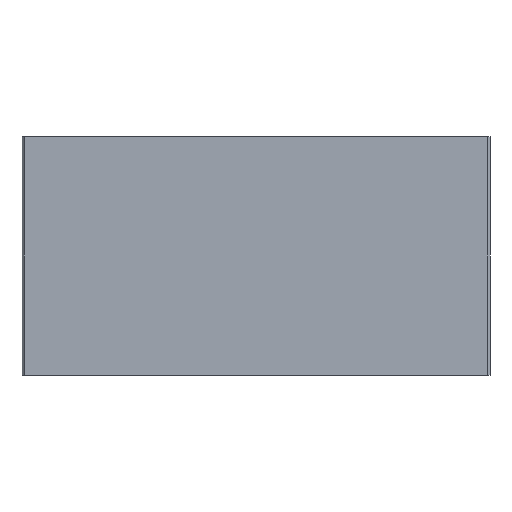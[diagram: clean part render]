
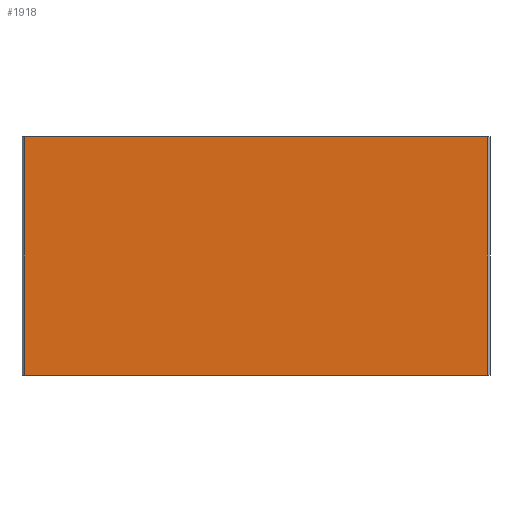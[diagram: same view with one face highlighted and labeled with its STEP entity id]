
A CAD part, front view. The second image highlights one B-rep face of the part: STEP entity #1918.
In plain terms, the highlighted planar face has unit normal (0, -1, 0).
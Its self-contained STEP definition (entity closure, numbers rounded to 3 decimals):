
#1224 = CARTESIAN_POINT ( 'NONE',  ( 36.283, 186.724, 0. ) ) ;
#1638 = DIRECTION ( 'NONE',  ( 0., 0., -1. ) ) ;
#1918 = ADVANCED_FACE ( 'NONE', ( #8372 ), #46674, .F. ) ;
#3495 = DIRECTION ( 'NONE',  ( 0., 0., -1. ) ) ;
#6823 = LINE ( 'NONE', #37870, #54805 ) ;
#7653 = EDGE_CURVE ( 'NONE', #14576, #61243, #41859, .T. ) ;
#8372 = FACE_OUTER_BOUND ( 'NONE', #29994, .T. ) ;
#13974 = DIRECTION ( 'NONE',  ( 1., 0., 0. ) ) ;
#14094 = CARTESIAN_POINT ( 'NONE',  ( 36.283, 186.724, 100. ) ) ;
#14576 = VERTEX_POINT ( 'NONE', #1224 ) ;
#15834 = ORIENTED_EDGE ( 'NONE', *, *, #37779, .F. ) ;
#16359 = VECTOR ( 'NONE', #17703, 1000. ) ;
#17703 = DIRECTION ( 'NONE',  ( 1., 0., 0. ) ) ;
#21318 = VECTOR ( 'NONE', #1638, 1000. ) ;
#27615 = DIRECTION ( 'NONE',  ( 0., 0., 1. ) ) ;
#29937 = ORIENTED_EDGE ( 'NONE', *, *, #48216, .T. ) ;
#29994 = EDGE_LOOP ( 'NONE', ( #41876, #36338, #15834, #29937 ) ) ;
#30903 = VERTEX_POINT ( 'NONE', #31121 ) ;
#31121 = CARTESIAN_POINT ( 'NONE',  ( 36.283, 186.724, 100. ) ) ;
#35163 = CARTESIAN_POINT ( 'NONE',  ( 230.283, 186.724, 100. ) ) ;
#35722 = VECTOR ( 'NONE', #3495, 1000. ) ;
#36338 = ORIENTED_EDGE ( 'NONE', *, *, #42803, .F. ) ;
#37231 = LINE ( 'NONE', #14094, #35722 ) ;
#37779 = EDGE_CURVE ( 'NONE', #30903, #50320, #6823, .T. ) ;
#37870 = CARTESIAN_POINT ( 'NONE',  ( 36.283, 186.724, 100. ) ) ;
#41859 = LINE ( 'NONE', #51231, #16359 ) ;
#41876 = ORIENTED_EDGE ( 'NONE', *, *, #7653, .T. ) ;
#42803 = EDGE_CURVE ( 'NONE', #50320, #61243, #46790, .T. ) ;
#46674 = PLANE ( 'NONE',  #50630 ) ;
#46790 = LINE ( 'NONE', #35163, #21318 ) ;
#48216 = EDGE_CURVE ( 'NONE', #30903, #14576, #37231, .T. ) ;
#50320 = VERTEX_POINT ( 'NONE', #59422 ) ;
#50630 = AXIS2_PLACEMENT_3D ( 'NONE', #51495, #56335, #27615 ) ;
#51231 = CARTESIAN_POINT ( 'NONE',  ( 36.283, 186.724, 0. ) ) ;
#51280 = CARTESIAN_POINT ( 'NONE',  ( 230.283, 186.724, 0. ) ) ;
#51495 = CARTESIAN_POINT ( 'NONE',  ( 36.283, 186.724, 100. ) ) ;
#54805 = VECTOR ( 'NONE', #13974, 1000. ) ;
#56335 = DIRECTION ( 'NONE',  ( 0., 1., 0. ) ) ;
#59422 = CARTESIAN_POINT ( 'NONE',  ( 230.283, 186.724, 100. ) ) ;
#61243 = VERTEX_POINT ( 'NONE', #51280 ) ;
